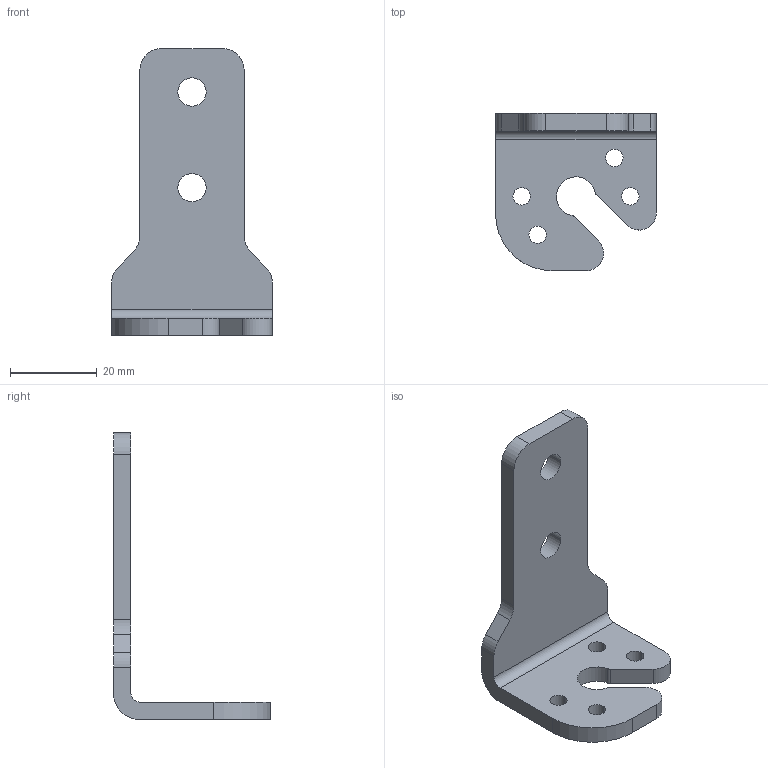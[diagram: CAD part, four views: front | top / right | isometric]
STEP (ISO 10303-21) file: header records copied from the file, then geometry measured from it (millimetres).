
FILE_DESCRIPTION((''),'2;1');
FILE_NAME('XUANZHUANZHIJIA','2026-04-01T15:53:58',('Administrator'),(''),'CREO PARAMETRIC BY PTC INC, 2016510','CREO PARAMETRIC BY PTC INC, 2016510','');
FILE_SCHEMA(('AUTOMOTIVE_DESIGN { 1 0 10303 214 1 1 1 1 }'));
Length unit declared in the file: millimetre
Products named in the file (1): XUANZHUANZHIJIA
Bounding box: 37 x 36.1 x 66 mm (x, y, z)
Volume: 10119.5 mm3; surface area: 6527.9 mm2
Topology: 1 solids, 1 shells, 40 faces, 114 edges, 76 vertices
Faces by surface type: cylinder 26, plane 14
Entity records: 1753 total; most frequent: DIRECTION 246, CARTESIAN_POINT 232, ORIENTED_EDGE 228, PRESENTATION_STYLE_ASSIGNMENT 115, STYLED_ITEM 115, CURVE_STYLE 114, EDGE_CURVE 114, AXIS2_PLACEMENT_3D 92
